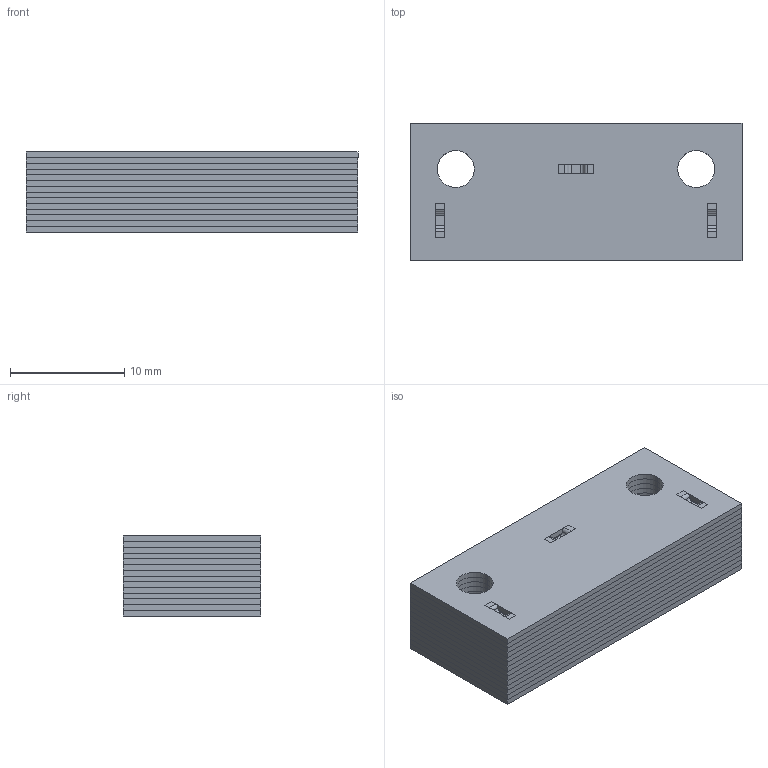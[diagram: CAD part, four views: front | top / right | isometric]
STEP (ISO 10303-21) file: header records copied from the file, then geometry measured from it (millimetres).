
FILE_DESCRIPTION (( 'STEP AP214' ), '1' );
FILE_NAME ('Dynamic Component.STEP', '2018-11-14T22:41:33', ( '' ), ( '' ), 'SwSTEP 2.0', 'SolidWorks 2018', '' );
FILE_SCHEMA (( 'AUTOMOTIVE_DESIGN' ));
Length unit declared in the file: inch
Products named in the file (3): Punch; Base Plate no Bumpers; Dynamic Component
Assembly tree (17 placements, depth 2):
  Dynamic Component
    Base Plate no Bumpers  x14
    Punch  x3
Bounding box: 29 x 12 x 7 mm (x, y, z)
Volume: 2317.2 mm3; surface area: 10123.5 mm2
Topology: 17 solids, 17 shells, 362 faces, 984 edges, 656 vertices
Faces by surface type: plane 282, cylinder 80
Entity records: 1754 total; most frequent: DIRECTION 252, CARTESIAN_POINT 240, ORIENTED_EDGE 216, EDGE_CURVE 108, VECTOR 84, LINE 84, AXIS2_PLACEMENT_3D 84, VERTEX_POINT 72
